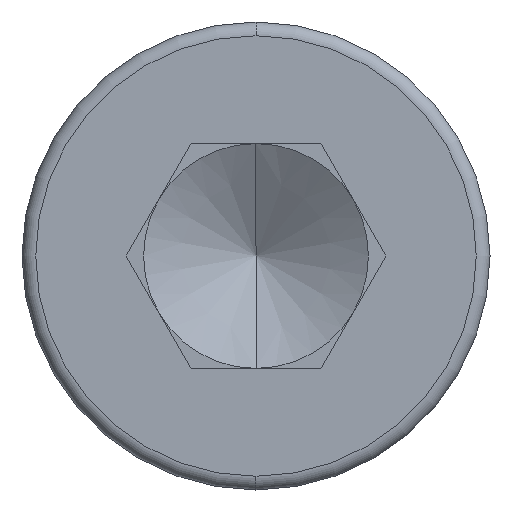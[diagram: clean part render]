
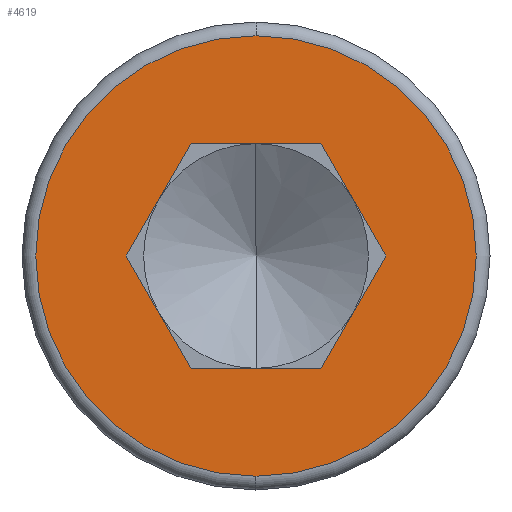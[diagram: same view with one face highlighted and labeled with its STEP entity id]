
A CAD part, left-side view. The second image highlights one B-rep face of the part: STEP entity #4619.
In plain terms, the highlighted planar face has unit normal (-1, 0, 0).
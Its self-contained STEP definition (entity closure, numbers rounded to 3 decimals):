
#11 = CARTESIAN_POINT ( 'NONE',  ( 0., 1.179, -2.042 ) ) ;
#43 = EDGE_LOOP ( 'NONE', ( #720, #3751 ) ) ;
#157 = ORIENTED_EDGE ( 'NONE', *, *, #1231, .T. ) ;
#176 = CARTESIAN_POINT ( 'NONE',  ( 0., -1.179, 2.042 ) ) ;
#321 = EDGE_CURVE ( 'NONE', #704, #3572, #2964, .T. ) ;
#342 = VECTOR ( 'NONE', #1126, 1000. ) ;
#485 = AXIS2_PLACEMENT_3D ( 'NONE', #525, #5322, #2458 ) ;
#511 = DIRECTION ( 'NONE',  ( 0., 0., 1. ) ) ;
#525 = CARTESIAN_POINT ( 'NONE',  ( 0., 0., 0. ) ) ;
#657 = EDGE_LOOP ( 'NONE', ( #4987, #2629, #157, #1248, #5056, #5360 ) ) ;
#703 = CARTESIAN_POINT ( 'NONE',  ( 0., 1.179, 2.042 ) ) ;
#704 = VERTEX_POINT ( 'NONE', #1162 ) ;
#720 = ORIENTED_EDGE ( 'NONE', *, *, #5014, .T. ) ;
#809 = CARTESIAN_POINT ( 'NONE',  ( 0., -1.179, -2.042 ) ) ;
#1025 = DIRECTION ( 'NONE',  ( 0., 0., 1. ) ) ;
#1038 = CARTESIAN_POINT ( 'NONE',  ( 0., -2.358, 0. ) ) ;
#1061 = VERTEX_POINT ( 'NONE', #4041 ) ;
#1126 = DIRECTION ( 'NONE',  ( 0., -0.5, -0.866 ) ) ;
#1140 = VERTEX_POINT ( 'NONE', #1038 ) ;
#1162 = CARTESIAN_POINT ( 'NONE',  ( 0., 2.358, 0. ) ) ;
#1203 = LINE ( 'NONE', #3006, #3260 ) ;
#1205 = CARTESIAN_POINT ( 'NONE',  ( 0., 0., 4. ) ) ;
#1231 = EDGE_CURVE ( 'NONE', #2679, #1140, #4811, .T. ) ;
#1248 = ORIENTED_EDGE ( 'NONE', *, *, #2151, .T. ) ;
#1504 = VECTOR ( 'NONE', #3655, 1000. ) ;
#1630 = DIRECTION ( 'NONE',  ( 0., -0.5, 0.866 ) ) ;
#1632 = CARTESIAN_POINT ( 'NONE',  ( 0., -1.179, 2.042 ) ) ;
#1690 = EDGE_CURVE ( 'NONE', #1061, #2912, #4117, .T. ) ;
#1970 = LINE ( 'NONE', #5792, #2844 ) ;
#2099 = LINE ( 'NONE', #1632, #2402 ) ;
#2151 = EDGE_CURVE ( 'NONE', #1140, #4452, #1970, .T. ) ;
#2160 = CARTESIAN_POINT ( 'NONE',  ( 0., 1.179, -2.042 ) ) ;
#2171 = AXIS2_PLACEMENT_3D ( 'NONE', #3337, #5263, #1025 ) ;
#2402 = VECTOR ( 'NONE', #4003, 1000. ) ;
#2458 = DIRECTION ( 'NONE',  ( 0., 0., 1. ) ) ;
#2620 = EDGE_CURVE ( 'NONE', #2679, #3139, #2099, .T. ) ;
#2629 = ORIENTED_EDGE ( 'NONE', *, *, #2620, .F. ) ;
#2679 = VERTEX_POINT ( 'NONE', #176 ) ;
#2844 = VECTOR ( 'NONE', #4814, 1000. ) ;
#2912 = VERTEX_POINT ( 'NONE', #1205 ) ;
#2964 = LINE ( 'NONE', #5272, #3155 ) ;
#3006 = CARTESIAN_POINT ( 'NONE',  ( 0., 2.358, 0. ) ) ;
#3139 = VERTEX_POINT ( 'NONE', #703 ) ;
#3155 = VECTOR ( 'NONE', #4868, 1000. ) ;
#3260 = VECTOR ( 'NONE', #1630, 1000. ) ;
#3337 = CARTESIAN_POINT ( 'NONE',  ( 0., 0., 0. ) ) ;
#3366 = FACE_BOUND ( 'NONE', #657, .T. ) ;
#3440 = EDGE_CURVE ( 'NONE', #3572, #4452, #4969, .T. ) ;
#3572 = VERTEX_POINT ( 'NONE', #11 ) ;
#3655 = DIRECTION ( 'NONE',  ( 0., -1., 0. ) ) ;
#3751 = ORIENTED_EDGE ( 'NONE', *, *, #1690, .T. ) ;
#4003 = DIRECTION ( 'NONE',  ( 0., 1., 0. ) ) ;
#4041 = CARTESIAN_POINT ( 'NONE',  ( 0., 0., -4. ) ) ;
#4117 = CIRCLE ( 'NONE', #4639, 4. ) ;
#4249 = CARTESIAN_POINT ( 'NONE',  ( 0., 0., 0. ) ) ;
#4269 = FACE_OUTER_BOUND ( 'NONE', #43, .T. ) ;
#4452 = VERTEX_POINT ( 'NONE', #809 ) ;
#4619 = ADVANCED_FACE ( 'NONE', ( #3366, #4269 ), #5661, .T. ) ;
#4639 = AXIS2_PLACEMENT_3D ( 'NONE', #4249, #5183, #511 ) ;
#4811 = LINE ( 'NONE', #5790, #342 ) ;
#4814 = DIRECTION ( 'NONE',  ( 0., 0.5, -0.866 ) ) ;
#4868 = DIRECTION ( 'NONE',  ( 0., -0.5, -0.866 ) ) ;
#4969 = LINE ( 'NONE', #2160, #1504 ) ;
#4987 = ORIENTED_EDGE ( 'NONE', *, *, #5905, .T. ) ;
#5014 = EDGE_CURVE ( 'NONE', #2912, #1061, #5157, .T. ) ;
#5056 = ORIENTED_EDGE ( 'NONE', *, *, #3440, .F. ) ;
#5157 = CIRCLE ( 'NONE', #485, 4. ) ;
#5183 = DIRECTION ( 'NONE',  ( -1., 0., 0. ) ) ;
#5263 = DIRECTION ( 'NONE',  ( -1., 0., 0. ) ) ;
#5272 = CARTESIAN_POINT ( 'NONE',  ( 0., 2.358, 0. ) ) ;
#5322 = DIRECTION ( 'NONE',  ( -1., 0., 0. ) ) ;
#5360 = ORIENTED_EDGE ( 'NONE', *, *, #321, .F. ) ;
#5661 = PLANE ( 'NONE',  #2171 ) ;
#5790 = CARTESIAN_POINT ( 'NONE',  ( 0., -1.179, 2.042 ) ) ;
#5792 = CARTESIAN_POINT ( 'NONE',  ( 0., -2.358, 0. ) ) ;
#5905 = EDGE_CURVE ( 'NONE', #704, #3139, #1203, .T. ) ;
